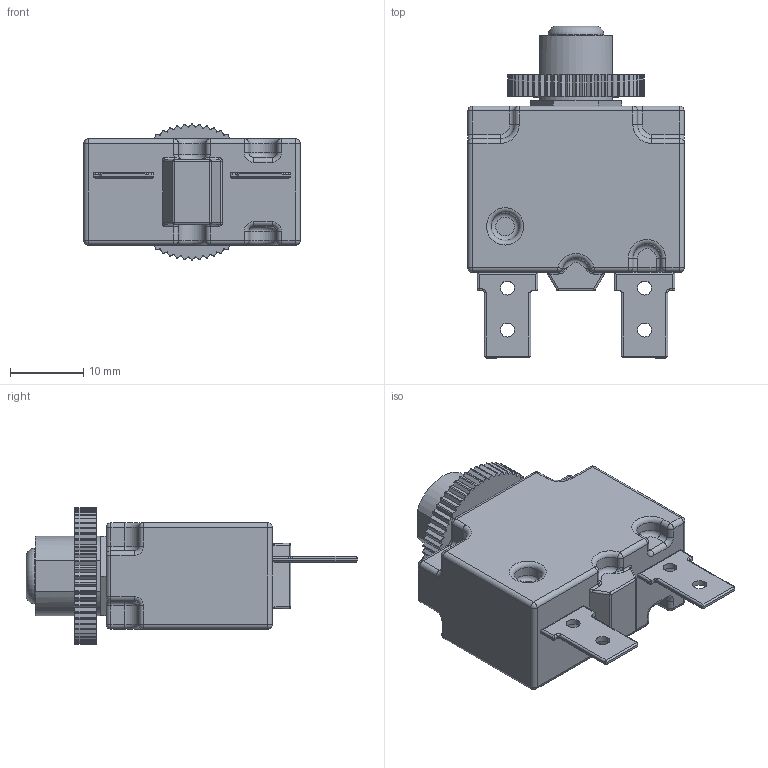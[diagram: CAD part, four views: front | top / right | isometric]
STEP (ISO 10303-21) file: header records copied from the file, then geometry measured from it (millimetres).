
FILE_DESCRIPTION(/* description */ (''),/* implementation_level */ '2;1');
FILE_NAME(/* name */ 'C:\Users\Hani\Desktop\work\CBW57-PS-20A-WP\CBW57-HS.stp',/* time_stamp */ '2021-07-16T07:26:42-07:00',/* author */ ('Hani'),/* organization */ (''),/* preprocessor_version */ 'ST-DEVELOPER v17',/* originating_system */ 'Autodesk Inventor 2019',/* authorisation */ '');
FILE_SCHEMA (('AUTOMOTIVE_DESIGN { 1 0 10303 214 3 1 1 }'));
Length unit declared in the file: inch
Products named in the file (6): CBW57-PS-20A-WP; CBW57-PS-20A-WP_1; Knurled NUT; botton; terminal; terminal_MIR1
Assembly tree (5 placements, depth 2):
  CBW57-PS-20A-WP
    CBW57-PS-20A-WP_1
    Knurled NUT
    botton
    terminal
    terminal_MIR1
Bounding box: 29.46 x 45.21 x 18.53 mm (x, y, z)
Volume: 10730.9 mm3; surface area: 4455.3 mm2
Topology: 5 solids, 5 shells, 977 faces, 2233 edges, 1268 vertices
Faces by surface type: cylinder 468, torus 265, plane 192, sphere 34, bspline 10, cone 8
Full cylindrical faces by diameter (mm): 1.905 x4, 3.81 x2, 7.569 x1, 7.62 x1, 10.795 x1
Entity records: 30158 total; most frequent: CARTESIAN_POINT 7855, DIRECTION 4944, ORIENTED_EDGE 4462, EDGE_CURVE 2231, AXIS2_PLACEMENT_3D 1977, VERTEX_POINT 1268, EDGE_LOOP 991, LINE 990
